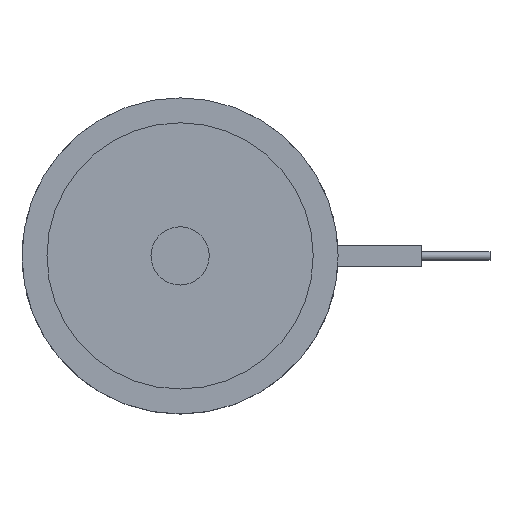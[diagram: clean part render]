
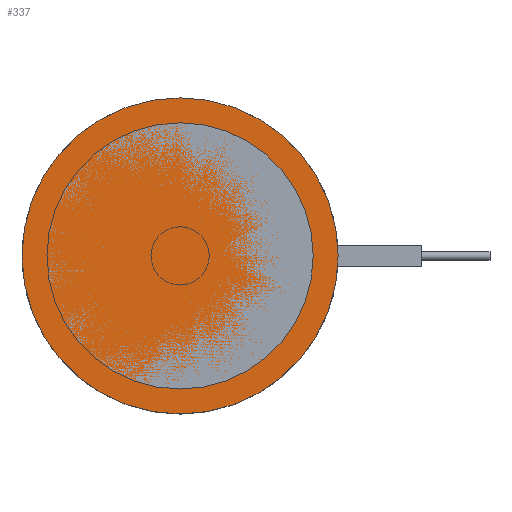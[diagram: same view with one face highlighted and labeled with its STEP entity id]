
A CAD part, top view. The second image highlights one B-rep face of the part: STEP entity #337.
In plain terms, the highlighted planar face has unit normal (0, 0, 1).
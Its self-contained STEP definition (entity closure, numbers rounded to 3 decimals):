
#248=CIRCLE('',#1189,19.);
#337=ADVANCED_FACE('',(#441),#403,.F.);
#403=PLANE('',#1190);
#441=FACE_OUTER_BOUND('',#531,.T.);
#531=EDGE_LOOP('',(#677));
#677=ORIENTED_EDGE('',*,*,#976,.F.);
#877=VERTEX_POINT('',#1753);
#976=EDGE_CURVE('',#877,#877,#248,.T.);
#1189=AXIS2_PLACEMENT_3D('',#1752,#1407,#1408);
#1190=AXIS2_PLACEMENT_3D('',#1754,#1409,#1410);
#1407=DIRECTION('',(0.,0.,-1.));
#1408=DIRECTION('',(-1.,0.,0.));
#1409=DIRECTION('',(0.,0.,-1.));
#1410=DIRECTION('',(-1.,0.,0.));
#1752=CARTESIAN_POINT('',(0.,0.,0.));
#1753=CARTESIAN_POINT('',(-19.,0.,0.));
#1754=CARTESIAN_POINT('',(0.,0.,0.));
